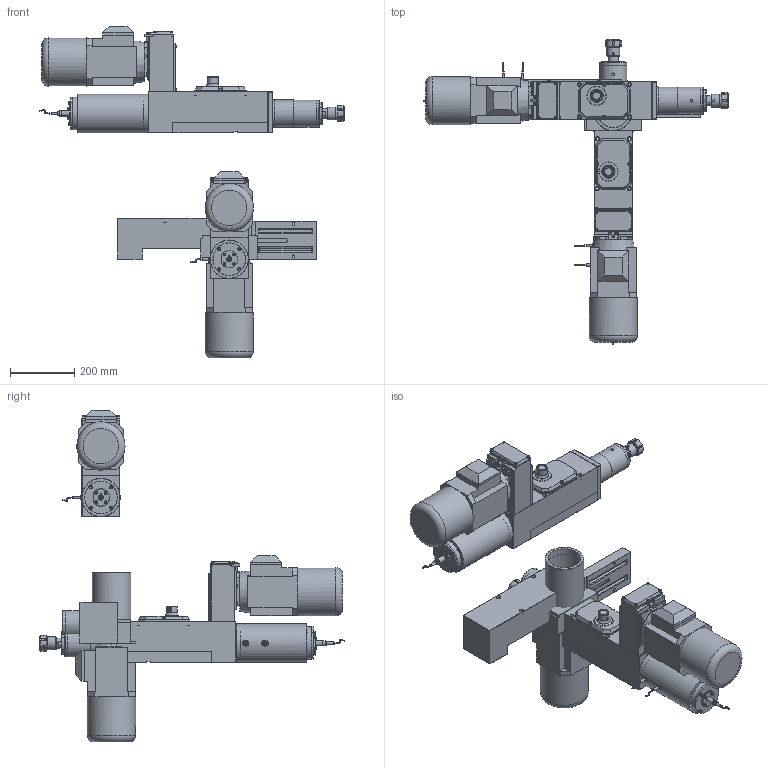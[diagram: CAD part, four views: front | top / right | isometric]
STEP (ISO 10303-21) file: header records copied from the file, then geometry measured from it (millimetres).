
FILE_DESCRIPTION( ( 'STEP AP203' ), '1' );
FILE_NAME( 'C:/Documents and Settings/Saverio/Desktop/disegni ironcad/unità serie 1/MC 112 A/MC 112 A_A03_P.stp', '2014-03-25T08:34:05', ( ' ' ), ( ' ' ), 'XStep 1.0', ' ', ' ' );
FILE_SCHEMA( ( 'CONFIG_CONTROL_DESIGN' ) );
Length unit declared in the file: metre
Products named in the file (59): Assem1; Assem2; Assem3; 1; 2; 3; 4; 5; 6; 7; 8; 9; 10; 11; 12; 13; 14; 15; 16; 17; 18; 19; 20; 21; 22; 23; 24; 25; 26; 27; 28; 29; 30; 31; 32; 33; 34; 35; 36; 37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
Bounding box: 946.75 x 948.55 x 1032.13 mm (x, y, z)
Volume: 41693646.4 mm3; surface area: 3880029 mm2
Topology: 168 solids, 168 shells, 3561 faces, 8058 edges, 5052 vertices
Faces by surface type: plane 2097, cylinder 816, cone 522, sphere 60, bspline 42, torus 24
Full cylindrical faces by diameter (mm): 3 x3, 4.134 x3, 4.5 x12, 5 x51, 5.5 x15, 6 x33, 6.5 x6, 6.75 x18, 6.9 x12, 7 x15, 8 x9, 8.385 x15, 8.5 x27, 9.87 x24, 12 x6, 13.5 x12, 16 x3, 18 x9, 20 x3, 23 x6, 27 x3, 28.9 x3, 30 x6, 32 x15, 38.5 x3, 40 x3, 41 x3, 50 x9, 52 x3, 52.5 x3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
Entity records: 36928 total; most frequent: CARTESIAN_POINT 9135, DIRECTION 5205, ORIENTED_EDGE 4728, EDGE_CURVE 2364, AXIS2_PLACEMENT_3D 1937, VERTEX_POINT 1632, EDGE_LOOP 1626, LINE 1331
